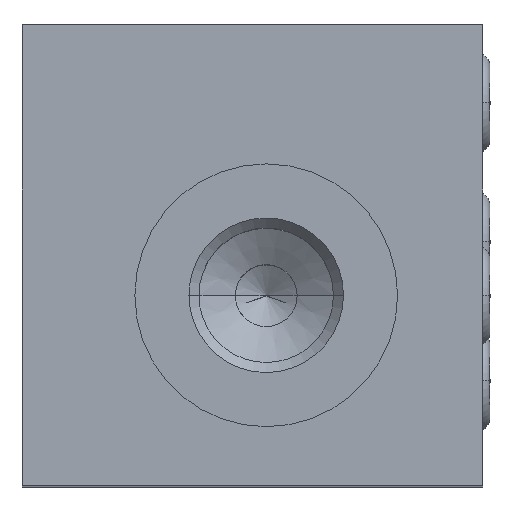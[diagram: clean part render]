
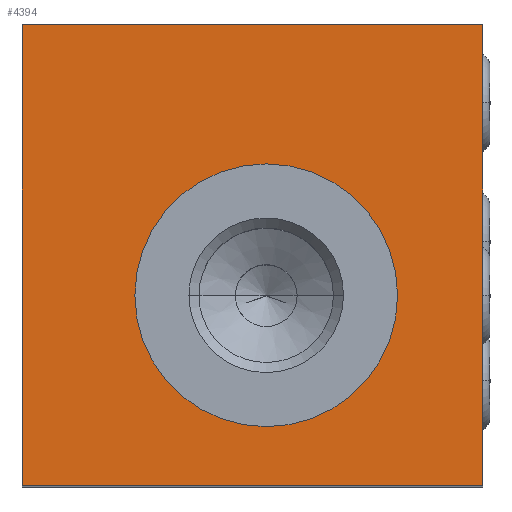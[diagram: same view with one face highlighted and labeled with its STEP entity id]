
A CAD part, top view. The second image highlights one B-rep face of the part: STEP entity #4394.
In plain terms, the highlighted planar face has unit normal (0, 0, 1).
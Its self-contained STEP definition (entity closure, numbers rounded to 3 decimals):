
#19=DIRECTION('',(-1.,0.,0.));
#20=VECTOR('',#19,29.8);
#21=CARTESIAN_POINT('',(14.9,14.9,34.));
#22=LINE('',#21,#20);
#153=DIRECTION('',(0.,1.,0.));
#154=VECTOR('',#153,29.8);
#155=CARTESIAN_POINT('',(14.9,-14.9,34.));
#156=LINE('',#155,#154);
#285=CARTESIAN_POINT('',(0.9,-2.6,34.));
#286=DIRECTION('',(0.,0.,-1.));
#287=DIRECTION('',(1.,0.,0.));
#288=AXIS2_PLACEMENT_3D('',#285,#286,#287);
#290=CARTESIAN_POINT('',(0.9,-2.6,34.));
#291=DIRECTION('',(0.,0.,-1.));
#292=DIRECTION('',(-1.,0.,0.));
#293=AXIS2_PLACEMENT_3D('',#290,#291,#292);
#295=DIRECTION('',(1.,0.,0.));
#296=VECTOR('',#295,29.8);
#297=CARTESIAN_POINT('',(-14.9,-14.9,34.));
#298=LINE('',#297,#296);
#347=DIRECTION('',(0.,-1.,0.));
#348=VECTOR('',#347,29.8);
#349=CARTESIAN_POINT('',(-14.9,14.9,34.));
#350=LINE('',#349,#348);
#3581=CARTESIAN_POINT('',(-14.9,14.9,34.));
#3583=VERTEX_POINT('',#3581);
#3585=CARTESIAN_POINT('',(-14.9,-14.9,34.));
#3587=VERTEX_POINT('',#3585);
#3589=CARTESIAN_POINT('',(14.9,-14.9,34.));
#3591=VERTEX_POINT('',#3589);
#3593=CARTESIAN_POINT('',(14.9,14.9,34.));
#3595=VERTEX_POINT('',#3593);
#4022=CARTESIAN_POINT('',(9.4,-2.6,34.));
#4023=VERTEX_POINT('',#4022);
#4024=CARTESIAN_POINT('',(-7.6,-2.6,34.));
#4025=VERTEX_POINT('',#4024);
#4375=CARTESIAN_POINT('',(0.,0.,34.));
#4376=DIRECTION('',(0.,0.,1.));
#4377=DIRECTION('',(1.,0.,0.));
#4378=AXIS2_PLACEMENT_3D('',#4375,#4376,#4377);
#4379=PLANE('',#4378);
#4380=ORIENTED_EDGE('',*,*,#4204,.F.);
#4381=ORIENTED_EDGE('',*,*,#4294,.F.);
#4383=ORIENTED_EDGE('',*,*,#4382,.F.);
#4385=ORIENTED_EDGE('',*,*,#4384,.F.);
#4386=EDGE_LOOP('',(#4380,#4381,#4383,#4385));
#4387=FACE_OUTER_BOUND('',#4386,.F.);
#4389=ORIENTED_EDGE('',*,*,#4388,.F.);
#4391=ORIENTED_EDGE('',*,*,#4390,.F.);
#4392=EDGE_LOOP('',(#4389,#4391));
#4393=FACE_BOUND('',#4392,.F.);
#4394=ADVANCED_FACE('',(#4387,#4393),#4379,.T.);
#289=CIRCLE('',#288,8.5);
#294=CIRCLE('',#293,8.5);
#4204=EDGE_CURVE('',#3595,#3583,#22,.T.);
#4294=EDGE_CURVE('',#3591,#3595,#156,.T.);
#4382=EDGE_CURVE('',#3587,#3591,#298,.T.);
#4384=EDGE_CURVE('',#3583,#3587,#350,.T.);
#4388=EDGE_CURVE('',#4023,#4025,#289,.T.);
#4390=EDGE_CURVE('',#4025,#4023,#294,.T.);
